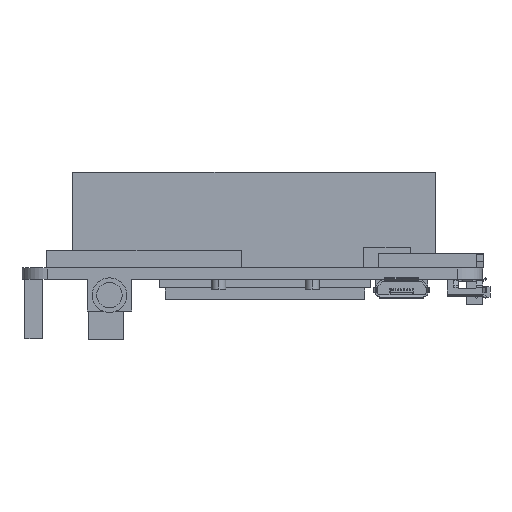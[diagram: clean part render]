
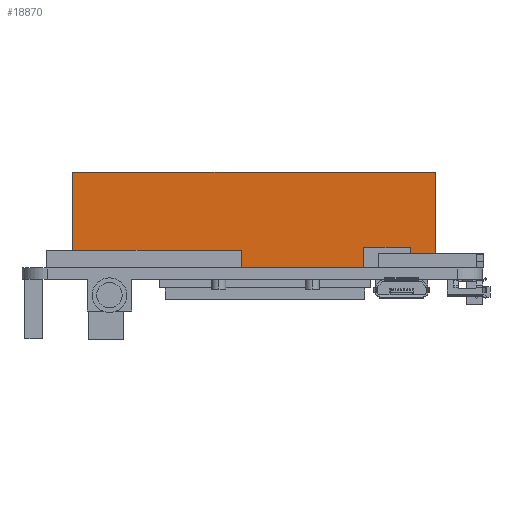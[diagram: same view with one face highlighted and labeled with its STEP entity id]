
A CAD part, front view. The second image highlights one B-rep face of the part: STEP entity #18870.
In plain terms, the highlighted planar face has unit normal (0, -1, 0).
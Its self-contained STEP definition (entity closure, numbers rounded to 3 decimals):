
#367=DIRECTION('',(1.,0.,0.));
#368=VECTOR('',#367,51.4);
#369=CARTESIAN_POINT('',(-25.7,22.2,0.8));
#370=LINE('',#369,#368);
#503=DIRECTION('',(0.,0.,-1.));
#504=VECTOR('',#503,13.6);
#505=CARTESIAN_POINT('',(25.7,22.2,14.4));
#506=LINE('',#505,#504);
#507=DIRECTION('',(0.,0.,-1.));
#508=VECTOR('',#507,13.6);
#509=CARTESIAN_POINT('',(-25.7,22.2,14.4));
#510=LINE('',#509,#508);
#523=DIRECTION('',(1.,0.,0.));
#524=VECTOR('',#523,51.4);
#525=CARTESIAN_POINT('',(-25.7,22.2,14.4));
#526=LINE('',#525,#524);
#14348=CARTESIAN_POINT('',(-25.7,22.2,14.4));
#14350=VERTEX_POINT('',#14348);
#14351=CARTESIAN_POINT('',(25.7,22.2,14.4));
#14352=VERTEX_POINT('',#14351);
#14356=CARTESIAN_POINT('',(-25.7,22.2,0.8));
#14358=VERTEX_POINT('',#14356);
#14359=CARTESIAN_POINT('',(25.7,22.2,0.8));
#14360=VERTEX_POINT('',#14359);
#18858=CARTESIAN_POINT('',(-25.7,22.2,14.4));
#18859=DIRECTION('',(0.,-1.,0.));
#18860=DIRECTION('',(1.,0.,0.));
#18861=AXIS2_PLACEMENT_3D('',#18858,#18859,#18860);
#18862=PLANE('',#18861);
#18863=ORIENTED_EDGE('',*,*,#18708,.F.);
#18864=ORIENTED_EDGE('',*,*,#18825,.F.);
#18866=ORIENTED_EDGE('',*,*,#18865,.T.);
#18867=ORIENTED_EDGE('',*,*,#18850,.T.);
#18868=EDGE_LOOP('',(#18863,#18864,#18866,#18867));
#18869=FACE_OUTER_BOUND('',#18868,.F.);
#18870=ADVANCED_FACE('',(#18869),#18862,.T.);
#18708=EDGE_CURVE('',#14358,#14360,#370,.T.);
#18825=EDGE_CURVE('',#14350,#14358,#510,.T.);
#18850=EDGE_CURVE('',#14352,#14360,#506,.T.);
#18865=EDGE_CURVE('',#14350,#14352,#526,.T.);
